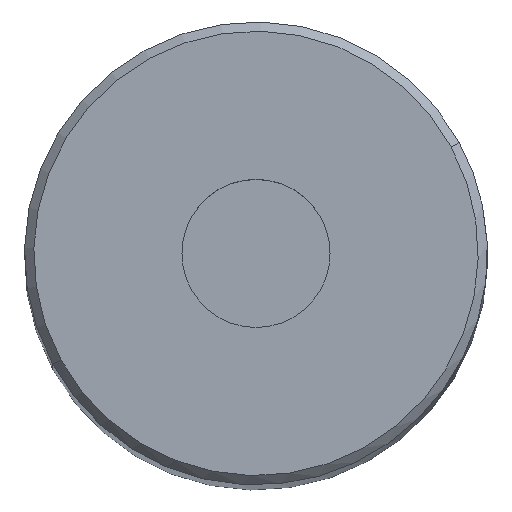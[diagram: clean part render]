
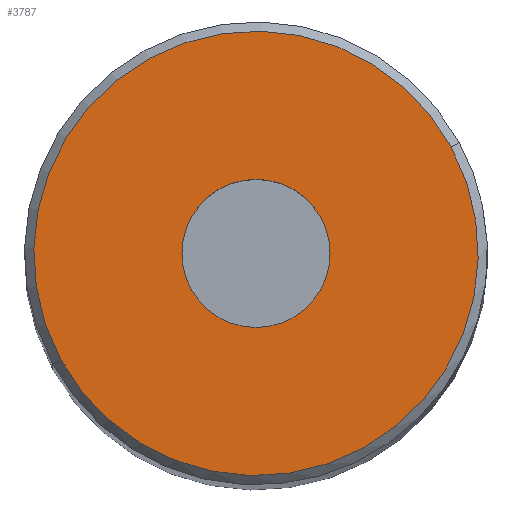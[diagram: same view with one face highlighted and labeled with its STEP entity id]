
A CAD part, top view. The second image highlights one B-rep face of the part: STEP entity #3787.
In plain terms, the highlighted planar face has unit normal (0, 0, 1).
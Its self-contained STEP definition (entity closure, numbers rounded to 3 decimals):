
#3724=AXIS2_PLACEMENT_3D('Circle Axis2P3D',#3722,#3723,$) ;
#3749=AXIS2_PLACEMENT_3D('Circle Axis2P3D',#3747,#3748,$) ;
#3763=AXIS2_PLACEMENT_3D('Plane Axis2P3D',#3760,#3761,#3762) ;
#3771=AXIS2_PLACEMENT_3D('Circle Axis2P3D',#3769,#3770,$) ;
#3780=AXIS2_PLACEMENT_3D('Circle Axis2P3D',#3778,#3779,$) ;
#3719=CARTESIAN_POINT('Vertex',(-10.531,-5.753,0.)) ;
#3722=CARTESIAN_POINT('Axis2P3D Location',(0.,0.,0.)) ;
#3726=CARTESIAN_POINT('Vertex',(10.531,5.753,0.)) ;
#3747=CARTESIAN_POINT('Axis2P3D Location',(0.,0.,0.)) ;
#3760=CARTESIAN_POINT('Axis2P3D Location',(-12.,0.,0.)) ;
#3769=CARTESIAN_POINT('Axis2P3D Location',(0.,0.,0.)) ;
#3773=CARTESIAN_POINT('Vertex',(4.,0.,0.)) ;
#3775=CARTESIAN_POINT('Vertex',(-4.,0.,0.)) ;
#3778=CARTESIAN_POINT('Axis2P3D Location',(0.,0.,0.)) ;
#3723=DIRECTION('Axis2P3D Direction',(-0.,0.,-1.)) ;
#3748=DIRECTION('Axis2P3D Direction',(-0.,0.,-1.)) ;
#3761=DIRECTION('Axis2P3D Direction',(0.,0.,1.)) ;
#3762=DIRECTION('Axis2P3D XDirection',(1.,0.,0.)) ;
#3770=DIRECTION('Axis2P3D Direction',(0.,0.,1.)) ;
#3779=DIRECTION('Axis2P3D Direction',(0.,0.,1.)) ;
#3766=ORIENTED_EDGE('',*,*,#3751,.T.) ;
#3767=ORIENTED_EDGE('',*,*,#3728,.T.) ;
#3784=ORIENTED_EDGE('',*,*,#3777,.F.) ;
#3785=ORIENTED_EDGE('',*,*,#3782,.F.) ;
#3786=FACE_BOUND('',#3783,.T.) ;
#3787=ADVANCED_FACE('NOCUT',(#3768,#3786),#3764,.T.) ;
#3725=CIRCLE('generated circle',#3724,12.) ;
#3750=CIRCLE('generated circle',#3749,12.) ;
#3772=CIRCLE('generated circle',#3771,4.) ;
#3781=CIRCLE('generated circle',#3780,4.) ;
#3728=EDGE_CURVE('',#3727,#3720,#3725,.F.) ;
#3751=EDGE_CURVE('',#3720,#3727,#3750,.F.) ;
#3777=EDGE_CURVE('',#3774,#3776,#3772,.T.) ;
#3782=EDGE_CURVE('',#3776,#3774,#3781,.T.) ;
#3765=EDGE_LOOP('',(#3766,#3767)) ;
#3783=EDGE_LOOP('',(#3784,#3785)) ;
#3768=FACE_OUTER_BOUND('',#3765,.T.) ;
#3764=PLANE('',#3763) ;
#3720=VERTEX_POINT('',#3719) ;
#3727=VERTEX_POINT('',#3726) ;
#3774=VERTEX_POINT('',#3773) ;
#3776=VERTEX_POINT('',#3775) ;
